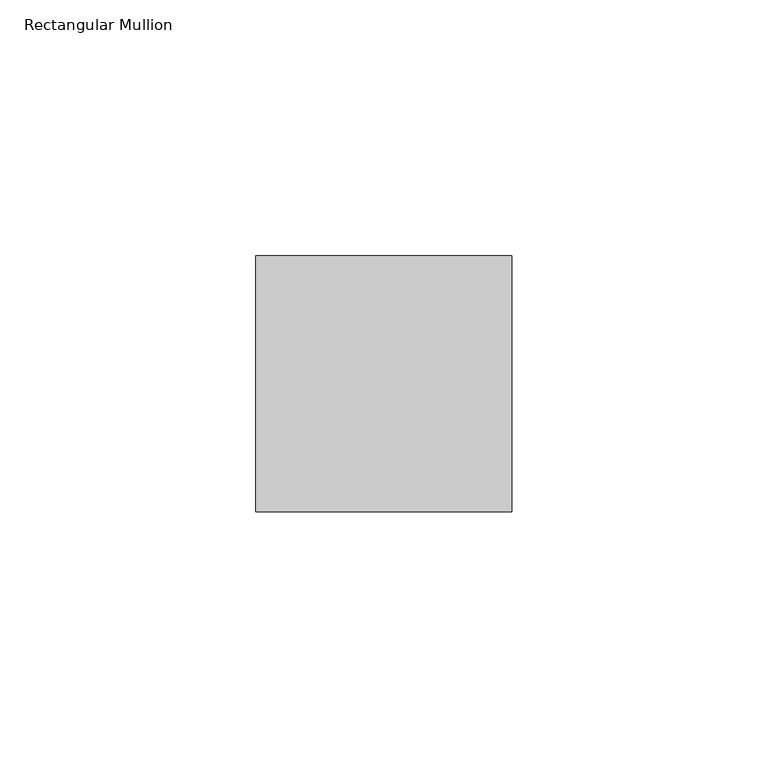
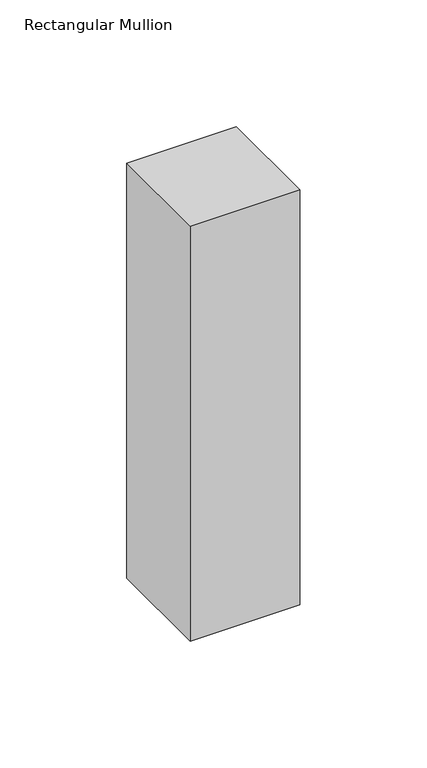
"""IFC4 building model written with IfcOpenShell, lengths in millimetres: member geometry, Rectangular Mullion : RSen_21_CWM_support profile 50x50 - right_gen_duco projects."""

from ifc_helpers import new_model, si_unit, frame, origin, place, context, project, spatial, polyline, outline, extrude, source, transform, mapped, element, save


def rectangular_mullion_614df7cf(model_context):
    return source(origin(), model_context, "Body", "SweptSolid", [
        extrude(outline(polyline([(-50.0, 1.0), (0.0, 1.0), (0.0, -49.0), (-50.0, -49.0), (-50.0, 1.0)])), frame((0.0, 0.0, -200.0), z_axis=(0.0, 0.0, 1.0), x_axis=(1.0, 0.0, 0.0)), (0.0, 0.0, 1.0), 200.0),
    ])


if __name__ == "__main__":
    model = new_model("IFC4")
    model_context = context("Model", 3, world=origin())
    ifc_project = project(units=[si_unit("LENGTHUNIT", "METRE", prefix="MILLI")], contexts=[model_context])
    site = spatial("IfcSite", under=ifc_project)
    building = spatial("IfcBuilding", under=site)
    placement = place(None, origin())
    rectangular_mullion_shape = rectangular_mullion_614df7cf(model_context)
    element("IfcMember", 1, ObjectType="Rectangular Mullion : RSen_21_CWM_support profile 50x50 - right_gen_duco projects", at=placement, inside=building, context=model_context, shape_type="MappedRepresentation", body=[
        mapped(rectangular_mullion_shape, transform((0.0, 0.0, 0.0), x_axis=(1.0, 0.0, 0.0), y_axis=(0.0, 1.0, 0.0), z_axis=(0.0, 0.0, 1.0))),
    ])
    save(model, "model.ifc")
